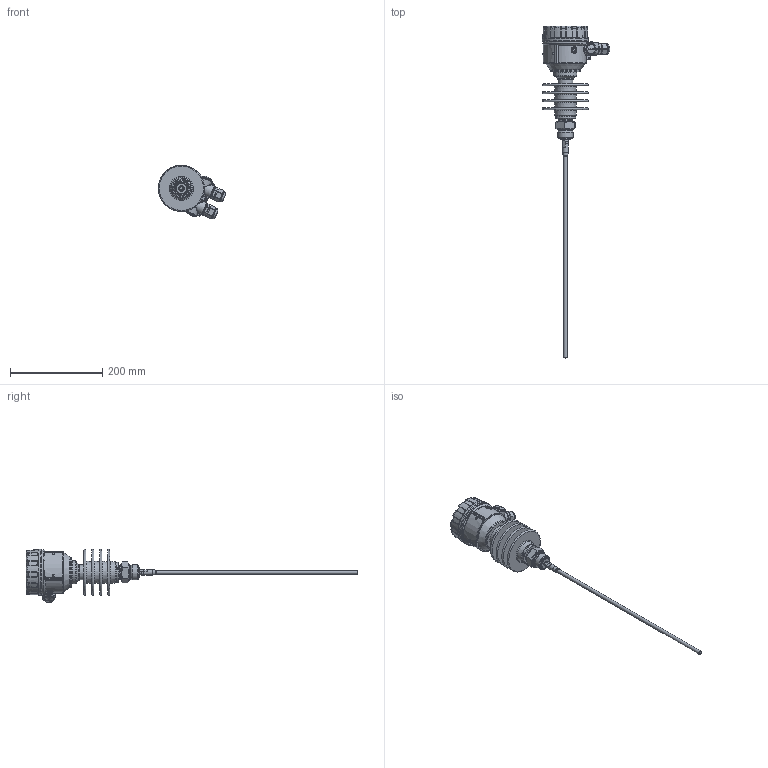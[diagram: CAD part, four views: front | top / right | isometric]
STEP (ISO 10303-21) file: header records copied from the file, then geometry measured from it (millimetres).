
FILE_DESCRIPTION(/* description */ (''),/* implementation_level */ '2;1');
FILE_NAME(/* name */ 'I:\Raj\3D\készülék rajzok\Összeállított készülékek\HT\HPR_7.stp',/* time_stamp */ '2022-09-06T15:54:55+02:00',/* author */ ('zcserhati'),/* organization */ (''),/* preprocessor_version */ 'ST-DEVELOPER v15.6',/* originating_system */ 'Autodesk Inventor 2015',/* authorisation */ '');
FILE_SCHEMA (('AUTOMOTIVE_DESIGN { 1 0 10303 214 3 1 1 }'));
Products named in the file (30): RKH_1_1.0001; ZARO; SB_külső; U_Alát; DIN 128 - A4; DIN 7985 (Z) - M4x8-Z; Tlem_egy; adattabla; Szegecs; SZERELTHAZ; Alu_alacsony_uveg; Tomsz; Alatet; Gumidugo; Tomszel_sz; HHK4_HFogl_Welds; HHK4_Csatl; HHK4_Cső; HHK-2; HHK-201; HTK_Agy; HHK4_HFogl; teflonbetét; ellenanya; Heg_rúd_Welds; Rúdvég; Rud; Heg_rúd; Szonda; HPR_7
Bounding box: 145.83 x 719.5 x 115.79 mm (x, y, z)
Volume: 489121.1 mm3; surface area: 246178.8 mm2
Topology: 35 solids, 35 shells, 1290 faces, 3079 edges, 1865 vertices
Faces by surface type: plane 367, cylinder 333, bspline 330, cone 105, torus 99, sphere 56
Full cylindrical faces by diameter (mm): 3 x6, 3.2 x2, 3.242 x3, 3.4 x2, 3.5 x5, 3.65 x1, 3.9 x1, 4 x1, 4.1 x1, 4.3 x1, 5.9 x1, 6 x2, 8 x4, 10 x3, 12 x1, 12.5 x4, 14 x2, 17 x3, 18.15 x7, 18.3 x12, 20 x10, 23.5 x2, 24.5 x1, 25 x2, 26 x2, 26.1 x1, 27.5 x2, 28 x1, 29.98 x2, 30 x7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
Entity records: 49187 total; most frequent: CARTESIAN_POINT 23927, ORIENTED_EDGE 5090, DIRECTION 4611, EDGE_CURVE 2543, AXIS2_PLACEMENT_3D 1960, VERTEX_POINT 1644, EDGE_LOOP 1427, FACE_OUTER_BOUND 1165
